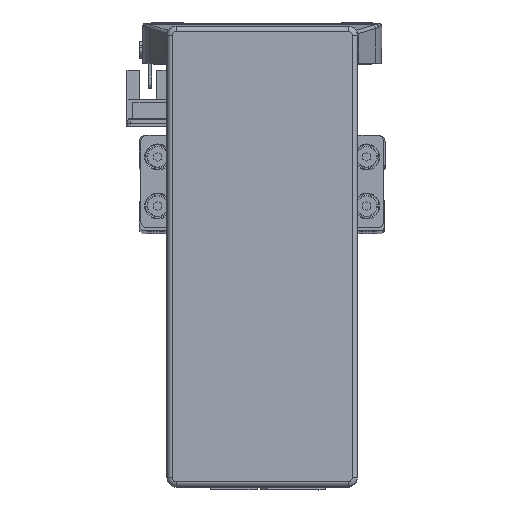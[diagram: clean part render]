
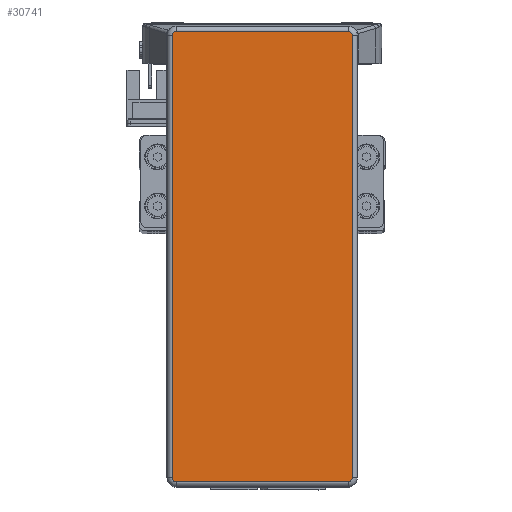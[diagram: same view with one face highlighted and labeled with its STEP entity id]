
A CAD part, top view. The second image highlights one B-rep face of the part: STEP entity #30741.
In plain terms, the highlighted planar face has unit normal (0, 0, 1) as drawn and (0, 0, -1) by its records, which use the part's own axes.
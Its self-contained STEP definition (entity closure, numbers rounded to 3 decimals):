
#63 = VERTEX_POINT ( 'NONE', #20179 ) ;
#73 = VERTEX_POINT ( 'NONE', #20201 ) ;
#106 = VERTEX_POINT ( 'NONE', #20200 ) ;
#118 = VERTEX_POINT ( 'NONE', #20244 ) ;
#126 = VERTEX_POINT ( 'NONE', #20239 ) ;
#149 = VERTEX_POINT ( 'NONE', #20241 ) ;
#156 = VERTEX_POINT ( 'NONE', #20227 ) ;
#159 = VERTEX_POINT ( 'NONE', #20256 ) ;
#2730 = EDGE_CURVE ( 'NONE', #63, #156, #41548, .T. ) ;
#2735 = EDGE_CURVE ( 'NONE', #73, #118, #41598, .T. ) ;
#2754 = EDGE_CURVE ( 'NONE', #159, #149, #41577, .T. ) ;
#2755 = EDGE_CURVE ( 'NONE', #106, #63, #41584, .T. ) ;
#2799 = EDGE_CURVE ( 'NONE', #156, #73, #41636, .T. ) ;
#2801 = EDGE_CURVE ( 'NONE', #126, #106, #41638, .T. ) ;
#2827 = EDGE_CURVE ( 'NONE', #118, #159, #41705, .T. ) ;
#2847 = EDGE_CURVE ( 'NONE', #149, #126, #41698, .T. ) ;
#5355 = AXIS2_PLACEMENT_3D ( 'NONE', #41187, #41172, #41204 ) ;
#5362 = AXIS2_PLACEMENT_3D ( 'NONE', #28457, #28458, #28462 ) ;
#5389 = AXIS2_PLACEMENT_3D ( 'NONE', #28478, #28481, #28543 ) ;
#5419 = AXIS2_PLACEMENT_3D ( 'NONE', #39728, #39708, #39715 ) ;
#12098 = EDGE_LOOP ( 'NONE', ( #35605, #35525, #35490, #35583, #35594, #35608, #35491, #35560 ) ) ;
#14601 = AXIS2_PLACEMENT_3D ( 'NONE', #21121, #21112, #21086 ) ;
#19094 = FACE_OUTER_BOUND ( 'NONE', #12098, .T. ) ;
#20179 = CARTESIAN_POINT ( 'NONE',  ( 73.295, 27.995, -32.2 ) ) ;
#20200 = CARTESIAN_POINT ( 'NONE',  ( 71.995, 29.295, -32.2 ) ) ;
#20201 = CARTESIAN_POINT ( 'NONE',  ( 71.995, -29.295, -32.2 ) ) ;
#20227 = CARTESIAN_POINT ( 'NONE',  ( 73.295, -27.995, -32.2 ) ) ;
#20239 = CARTESIAN_POINT ( 'NONE',  ( -71.995, 29.295, -32.2 ) ) ;
#20241 = CARTESIAN_POINT ( 'NONE',  ( -73.295, 27.995, -32.2 ) ) ;
#20244 = CARTESIAN_POINT ( 'NONE',  ( -71.995, -29.295, -32.2 ) ) ;
#20256 = CARTESIAN_POINT ( 'NONE',  ( -73.295, -27.995, -32.2 ) ) ;
#21077 = PLANE ( 'NONE',  #14601 ) ;
#21086 = DIRECTION ( 'NONE',  ( 1., 0., 0. ) ) ;
#21112 = DIRECTION ( 'NONE',  ( 0., 0., 1. ) ) ;
#21121 = CARTESIAN_POINT ( 'NONE',  ( 71.995, -27.995, -32.2 ) ) ;
#28457 = CARTESIAN_POINT ( 'NONE',  ( -71.995, -27.995, -32.2 ) ) ;
#28458 = DIRECTION ( 'NONE',  ( 0., 0., -1. ) ) ;
#28462 = DIRECTION ( 'NONE',  ( 1., 0., 0. ) ) ;
#28478 = CARTESIAN_POINT ( 'NONE',  ( -71.995, 27.995, -32.2 ) ) ;
#28481 = DIRECTION ( 'NONE',  ( 0., 0., -1. ) ) ;
#28543 = DIRECTION ( 'NONE',  ( 1., 0., 0. ) ) ;
#30741 = ADVANCED_FACE ( 'NONE', ( #19094 ), #21077, .F. ) ;
#35490 = ORIENTED_EDGE ( 'NONE', *, *, #2735, .T. ) ;
#35491 = ORIENTED_EDGE ( 'NONE', *, *, #2801, .T. ) ;
#35525 = ORIENTED_EDGE ( 'NONE', *, *, #2799, .T. ) ;
#35560 = ORIENTED_EDGE ( 'NONE', *, *, #2755, .T. ) ;
#35583 = ORIENTED_EDGE ( 'NONE', *, *, #2827, .T. ) ;
#35594 = ORIENTED_EDGE ( 'NONE', *, *, #2754, .T. ) ;
#35605 = ORIENTED_EDGE ( 'NONE', *, *, #2730, .T. ) ;
#35608 = ORIENTED_EDGE ( 'NONE', *, *, #2847, .T. ) ;
#39708 = DIRECTION ( 'NONE',  ( 0., 0., -1. ) ) ;
#39715 = DIRECTION ( 'NONE',  ( 1., 0., 0. ) ) ;
#39719 = CARTESIAN_POINT ( 'NONE',  ( 71.995, 29.295, -32.2 ) ) ;
#39727 = DIRECTION ( 'NONE',  ( 1., 0., 0. ) ) ;
#39728 = CARTESIAN_POINT ( 'NONE',  ( 71.995, -27.995, -32.2 ) ) ;
#41051 = DIRECTION ( 'NONE',  ( 0., -1., 0. ) ) ;
#41093 = CARTESIAN_POINT ( 'NONE',  ( 71.995, -29.295, -32.2 ) ) ;
#41106 = DIRECTION ( 'NONE',  ( -1., 0., 0. ) ) ;
#41108 = CARTESIAN_POINT ( 'NONE',  ( 73.295, -27.995, -32.2 ) ) ;
#41172 = DIRECTION ( 'NONE',  ( 0., 0., -1. ) ) ;
#41187 = CARTESIAN_POINT ( 'NONE',  ( 71.995, 27.995, -32.2 ) ) ;
#41197 = CARTESIAN_POINT ( 'NONE',  ( -73.295, -27.995, -32.2 ) ) ;
#41202 = DIRECTION ( 'NONE',  ( 0., 1., 0. ) ) ;
#41204 = DIRECTION ( 'NONE',  ( 1., 0., 0. ) ) ;
#41546 = VECTOR ( 'NONE', #41051, 1000. ) ;
#41548 = LINE ( 'NONE', #41108, #41546 ) ;
#41559 = VECTOR ( 'NONE', #41106, 1000. ) ;
#41577 = LINE ( 'NONE', #41197, #41582 ) ;
#41582 = VECTOR ( 'NONE', #41202, 1000. ) ;
#41584 = CIRCLE ( 'NONE', #5355, 1.3 ) ;
#41598 = LINE ( 'NONE', #41093, #41559 ) ;
#41636 = CIRCLE ( 'NONE', #5419, 1.3 ) ;
#41638 = LINE ( 'NONE', #39719, #41640 ) ;
#41640 = VECTOR ( 'NONE', #39727, 1000. ) ;
#41698 = CIRCLE ( 'NONE', #5389, 1.3 ) ;
#41705 = CIRCLE ( 'NONE', #5362, 1.3 ) ;
